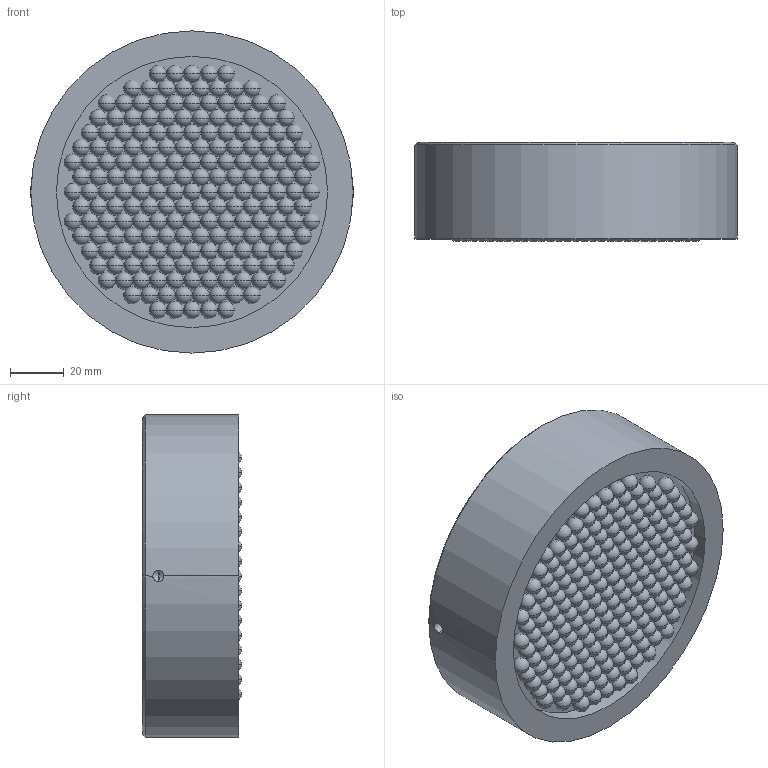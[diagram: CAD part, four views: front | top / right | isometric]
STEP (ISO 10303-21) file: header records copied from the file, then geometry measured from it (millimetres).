
FILE_DESCRIPTION (( 'STEP AP203' ), '1' );
FILE_NAME ('PS-50.STEP', '2020-09-03T07:38:47', ( '' ), ( '' ), 'SwSTEP 2.0', 'SolidWorks 2013', '' );
FILE_SCHEMA (( 'CONFIG_CONTROL_DESIGN' ));
Length unit declared in the file: millimetre
Products named in the file (1): PS-50
Bounding box: 120 x 37 x 120 mm (x, y, z)
Volume: 426094.4 mm3; surface area: 102830.4 mm2
Topology: 489 solids, 492 shells, 1095 faces, 3714 edges, 2623 vertices
Faces by surface type: sphere 976, plane 51, cylinder 48, cone 20
Entity records: 22139 total; most frequent: DIRECTION 4510, CARTESIAN_POINT 3631, ORIENTED_EDGE 2512, AXIS2_PLACEMENT_3D 2166, EDGE_CURVE 1256, VERTEX_POINT 1159, EDGE_LOOP 1109, ADVANCED_FACE 1095
